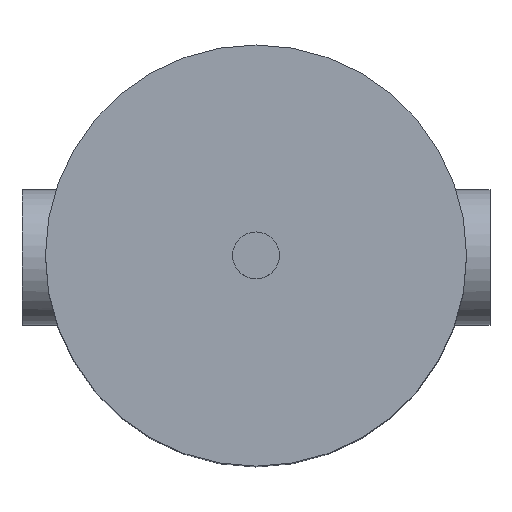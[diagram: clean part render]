
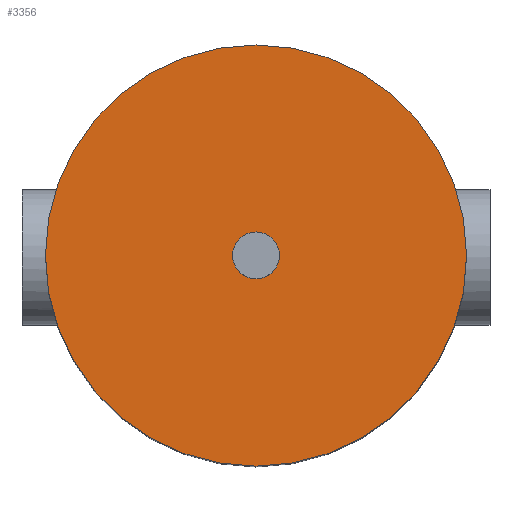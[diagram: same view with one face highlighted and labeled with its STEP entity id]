
A CAD part, top view. The second image highlights one B-rep face of the part: STEP entity #3356.
In plain terms, the highlighted planar face has unit normal (0, 0, 1).
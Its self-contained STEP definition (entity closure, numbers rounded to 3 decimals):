
#3272 = CYLINDRICAL_SURFACE('',#3273,45.);
#3273 = AXIS2_PLACEMENT_3D('',#3274,#3275,#3276);
#3274 = CARTESIAN_POINT('',(0.,0.,130.));
#3275 = DIRECTION('',(0.,0.,1.));
#3276 = DIRECTION('',(1.,0.,0.));
#3305 = EDGE_CURVE('',#3306,#3306,#3308,.T.);
#3306 = VERTEX_POINT('',#3307);
#3307 = CARTESIAN_POINT('',(45.,0.,234.));
#3308 = SURFACE_CURVE('',#3309,(#3314,#3321),.PCURVE_S1.);
#3309 = CIRCLE('',#3310,45.);
#3310 = AXIS2_PLACEMENT_3D('',#3311,#3312,#3313);
#3311 = CARTESIAN_POINT('',(0.,0.,234.));
#3312 = DIRECTION('',(0.,0.,1.));
#3313 = DIRECTION('',(1.,0.,0.));
#3314 = PCURVE('',#3272,#3315);
#3315 = DEFINITIONAL_REPRESENTATION('',(#3316),#3320);
#3316 = LINE('',#3317,#3318);
#3317 = CARTESIAN_POINT('',(0.,104.));
#3318 = VECTOR('',#3319,1.);
#3319 = DIRECTION('',(1.,0.));
#3320 = ( GEOMETRIC_REPRESENTATION_CONTEXT(2) 
PARAMETRIC_REPRESENTATION_CONTEXT() REPRESENTATION_CONTEXT('2D SPACE',''
  ) );
#3321 = PCURVE('',#3322,#3327);
#3322 = PLANE('',#3323);
#3323 = AXIS2_PLACEMENT_3D('',#3324,#3325,#3326);
#3324 = CARTESIAN_POINT('',(0.,0.,234.));
#3325 = DIRECTION('',(0.,0.,1.));
#3326 = DIRECTION('',(1.,0.,0.));
#3327 = DEFINITIONAL_REPRESENTATION('',(#3328),#3332);
#3328 = CIRCLE('',#3329,45.);
#3329 = AXIS2_PLACEMENT_2D('',#3330,#3331);
#3330 = CARTESIAN_POINT('',(0.,0.));
#3331 = DIRECTION('',(1.,0.));
#3332 = ( GEOMETRIC_REPRESENTATION_CONTEXT(2) 
PARAMETRIC_REPRESENTATION_CONTEXT() REPRESENTATION_CONTEXT('2D SPACE',''
  ) );
#3356 = ADVANCED_FACE('',(#3357,#3360),#3322,.T.);
#3357 = FACE_BOUND('',#3358,.T.);
#3358 = EDGE_LOOP('',(#3359));
#3359 = ORIENTED_EDGE('',*,*,#3305,.T.);
#3360 = FACE_BOUND('',#3361,.T.);
#3361 = EDGE_LOOP('',(#3362));
#3362 = ORIENTED_EDGE('',*,*,#3363,.F.);
#3363 = EDGE_CURVE('',#3364,#3364,#3366,.T.);
#3364 = VERTEX_POINT('',#3365);
#3365 = CARTESIAN_POINT('',(5.,0.,234.));
#3366 = SURFACE_CURVE('',#3367,(#3372,#3379),.PCURVE_S1.);
#3367 = CIRCLE('',#3368,5.);
#3368 = AXIS2_PLACEMENT_3D('',#3369,#3370,#3371);
#3369 = CARTESIAN_POINT('',(0.,0.,234.));
#3370 = DIRECTION('',(0.,0.,1.));
#3371 = DIRECTION('',(1.,0.,-0.));
#3372 = PCURVE('',#3322,#3373);
#3373 = DEFINITIONAL_REPRESENTATION('',(#3374),#3378);
#3374 = CIRCLE('',#3375,5.);
#3375 = AXIS2_PLACEMENT_2D('',#3376,#3377);
#3376 = CARTESIAN_POINT('',(0.,0.));
#3377 = DIRECTION('',(1.,0.));
#3378 = ( GEOMETRIC_REPRESENTATION_CONTEXT(2) 
PARAMETRIC_REPRESENTATION_CONTEXT() REPRESENTATION_CONTEXT('2D SPACE',''
  ) );
#3379 = PCURVE('',#3380,#3385);
#3380 = CYLINDRICAL_SURFACE('',#3381,5.);
#3381 = AXIS2_PLACEMENT_3D('',#3382,#3383,#3384);
#3382 = CARTESIAN_POINT('',(0.,0.,22.5));
#3383 = DIRECTION('',(0.,0.,1.));
#3384 = DIRECTION('',(1.,0.,0.));
#3385 = DEFINITIONAL_REPRESENTATION('',(#3386),#3390);
#3386 = LINE('',#3387,#3388);
#3387 = CARTESIAN_POINT('',(0.,211.5));
#3388 = VECTOR('',#3389,1.);
#3389 = DIRECTION('',(1.,0.));
#3390 = ( GEOMETRIC_REPRESENTATION_CONTEXT(2) 
PARAMETRIC_REPRESENTATION_CONTEXT() REPRESENTATION_CONTEXT('2D SPACE',''
  ) );
